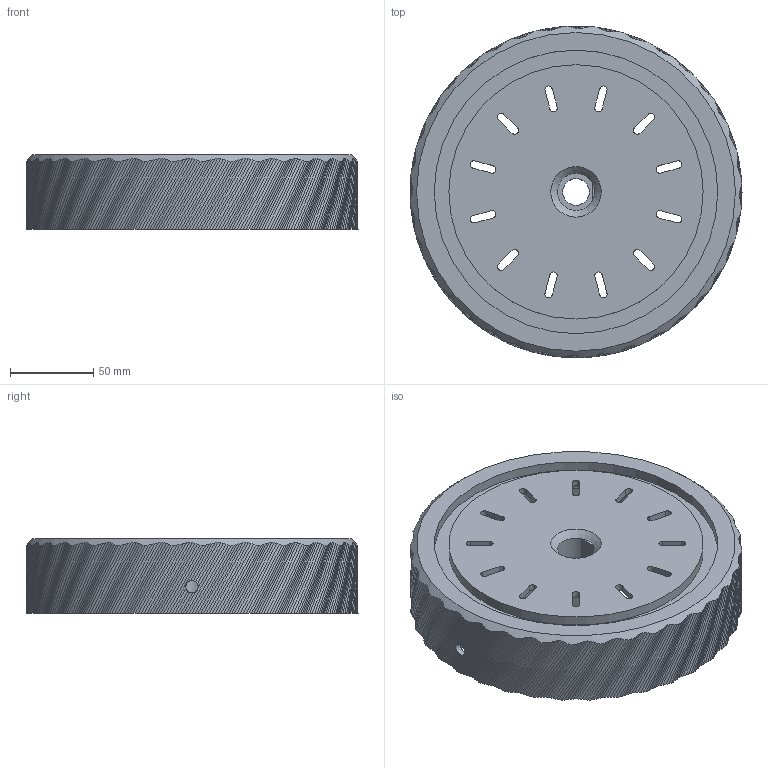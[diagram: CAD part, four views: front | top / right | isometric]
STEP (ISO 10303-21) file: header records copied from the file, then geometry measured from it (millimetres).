
FILE_DESCRIPTION(('Open CASCADE Model'),'2;1');
FILE_NAME('Open CASCADE Shape Model','2026-10-15T23:05:02',('Author'),( 'Open CASCADE'),'Open CASCADE STEP processor 7.9','Open CASCADE 7.9' ,'Unknown');
FILE_SCHEMA(('AUTOMOTIVE_DESIGN { 1 0 10303 214 1 1 1 1 }'));
Length unit declared in the file: millimetre
Products named in the file (1): Open CASCADE STEP translator 7.9 1
Bounding box: 200 x 200 x 45 mm (x, y, z)
Volume: 302216.1 mm3; surface area: 148117.8 mm2
Topology: 1 solids, 1 shells, 469 faces, 1372 edges, 914 vertices
Faces by surface type: bspline 364, plane 59, cylinder 44, cone 2
Full cylindrical faces by diameter (mm): 2.6 x3, 7.5 x1, 10 x3, 16 x1, 40 x1, 153.2 x1, 170.8 x1, 189.8 x1
Entity records: 40083 total; most frequent: CARTESIAN_POINT 19179, B_SPLINE_CURVE_WITH_KNOTS 2747, ORIENTED_EDGE 2744, PCURVE 2744, DEFINITIONAL_REPRESENTATION 2744, DIRECTION 1603, EDGE_CURVE 1372, SURFACE_CURVE 1358
